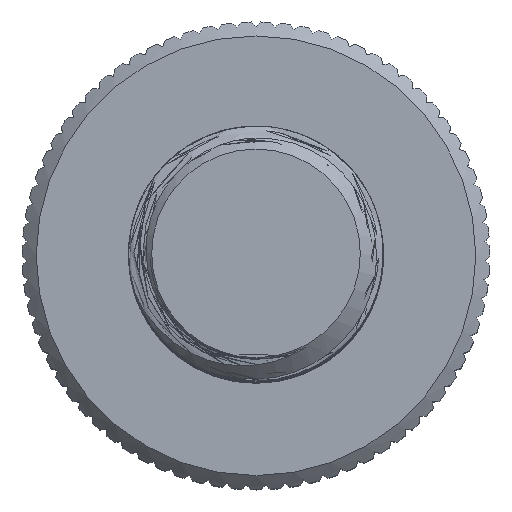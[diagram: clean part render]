
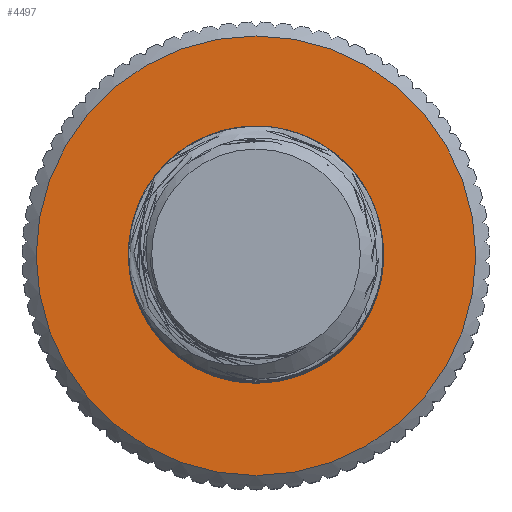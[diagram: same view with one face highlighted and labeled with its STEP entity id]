
A CAD part, top view. The second image highlights one B-rep face of the part: STEP entity #4497.
In plain terms, the highlighted planar face has unit normal (0, 0, 1).
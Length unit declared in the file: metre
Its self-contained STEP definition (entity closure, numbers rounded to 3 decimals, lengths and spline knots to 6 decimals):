
#1191=ORIENTED_EDGE('',*,*,#2548,.T.);
#1192=ORIENTED_EDGE('',*,*,#2549,.F.);
#2548=EDGE_CURVE('',#3189,#3189,#3514,.T.);
#2549=EDGE_CURVE('',#3190,#3190,#3515,.T.);
#3189=VERTEX_POINT('',#8103);
#3190=VERTEX_POINT('',#8105);
#3514=CIRCLE('',#5060,0.002585);
#3515=CIRCLE('',#5061,0.0015);
#3827=EDGE_LOOP('',(#1191));
#3828=EDGE_LOOP('',(#1192));
#4082=FACE_BOUND('',#3827,.T.);
#4083=FACE_BOUND('',#3828,.T.);
#4337=PLANE('',#5059);
#4497=ADVANCED_FACE('',(#4082,#4083),#4337,.T.);
#5059=AXIS2_PLACEMENT_3D('',#8101,#6445,#6446);
#5060=AXIS2_PLACEMENT_3D('',#8102,#6447,#6448);
#5061=AXIS2_PLACEMENT_3D('',#8104,#6449,#6450);
#6445=DIRECTION('',(0.,0.,1.));
#6446=DIRECTION('',(0.,-1.,0.));
#6447=DIRECTION('',(0.,0.,1.));
#6448=DIRECTION('',(0.,1.,0.));
#6449=DIRECTION('',(0.,0.,1.));
#6450=DIRECTION('',(0.,-1.,0.));
#8101=CARTESIAN_POINT('',(0.,0.002585,0.));
#8102=CARTESIAN_POINT('',(0.,0.,0.));
#8103=CARTESIAN_POINT('',(0.,0.002585,0.));
#8104=CARTESIAN_POINT('',(0.,0.,0.));
#8105=CARTESIAN_POINT('',(0.,-0.0015,0.));
